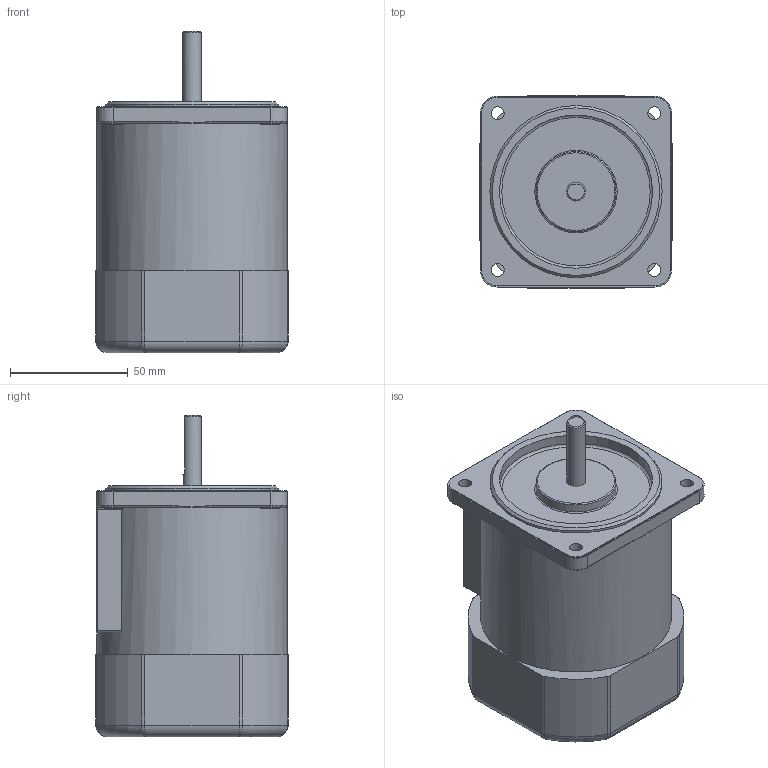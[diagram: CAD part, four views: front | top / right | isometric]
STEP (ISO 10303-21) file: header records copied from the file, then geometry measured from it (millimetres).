
FILE_DESCRIPTION (( 'STEP AP203' ), '1' );
FILE_NAME ('8IDD¤±-40F.STEP', '2022-09-20T02:29:46', ( '' ), ( '' ), 'SwSTEP 2.0', 'SolidWorks 2018', '' );
FILE_SCHEMA (( 'CONFIG_CONTROL_DESIGN' ));
Length unit declared in the file: millimetre
Products named in the file (2): 8IDD､ｱ-40F
Bounding box: 81.6 x 81.6 x 136.5 mm (x, y, z)
Volume: 582630.6 mm3; surface area: 45723.7 mm2
Topology: 1 solids, 1 shells, 120 faces, 290 edges, 164 vertices
Faces by surface type: cylinder 49, plane 34, torus 17, bspline 16, cone 2, sphere 2
Full cylindrical faces by diameter (mm): 5.5 x4, 8 x1, 34 x1, 65 x1, 73.1 x1, 81 x1
Entity records: 4287 total; most frequent: CARTESIAN_POINT 1579, DIRECTION 552, ORIENTED_EDGE 494, EDGE_CURVE 247, AXIS2_PLACEMENT_3D 229, VERTEX_POINT 156, EDGE_LOOP 155, FACE_OUTER_BOUND 136
